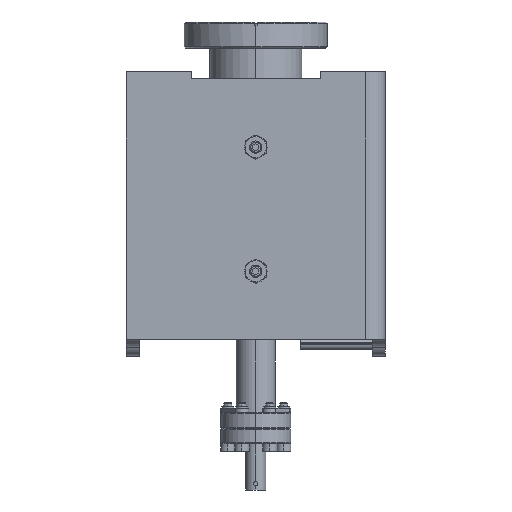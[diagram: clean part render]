
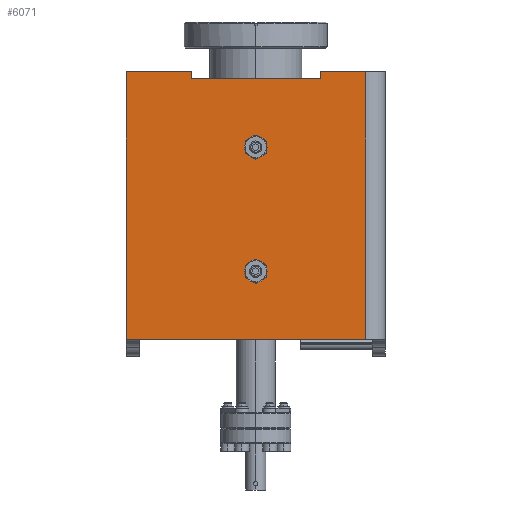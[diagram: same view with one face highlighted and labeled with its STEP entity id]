
A CAD part, left-side view. The second image highlights one B-rep face of the part: STEP entity #6071.
In plain terms, the highlighted planar face has unit normal (-1, 0, 0).
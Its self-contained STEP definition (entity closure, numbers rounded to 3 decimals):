
#203=DIRECTION('',(0.,0.,1.));
#204=VECTOR('',#203,129.404);
#205=CARTESIAN_POINT('',(-82.15,-50.95,-63.));
#206=LINE('',#205,#204);
#216=DIRECTION('',(0.,1.,0.));
#217=VECTOR('',#216,31.6);
#218=CARTESIAN_POINT('',(-82.15,33.275,66.404));
#219=LINE('',#218,#217);
#220=DIRECTION('',(0.,0.,-1.));
#221=VECTOR('',#220,3.404);
#222=CARTESIAN_POINT('',(-82.15,33.275,66.404));
#223=LINE('',#222,#221);
#224=DIRECTION('',(0.,-1.,0.));
#225=VECTOR('',#224,62.15);
#226=CARTESIAN_POINT('',(-82.15,33.275,63.));
#227=LINE('',#226,#225);
#228=CARTESIAN_POINT('',(-82.15,2.2,30.));
#229=DIRECTION('',(1.,0.,0.));
#230=DIRECTION('',(0.,0.866,-0.5));
#231=AXIS2_PLACEMENT_3D('',#228,#229,#230);
#233=CARTESIAN_POINT('',(-82.15,2.2,30.));
#234=DIRECTION('',(1.,0.,0.));
#235=DIRECTION('',(0.,-0.866,0.5));
#236=AXIS2_PLACEMENT_3D('',#233,#234,#235);
#238=CARTESIAN_POINT('',(-82.15,2.2,-30.));
#239=DIRECTION('',(1.,0.,0.));
#240=DIRECTION('',(0.,0.866,-0.5));
#241=AXIS2_PLACEMENT_3D('',#238,#239,#240);
#243=CARTESIAN_POINT('',(-82.15,2.2,-30.));
#244=DIRECTION('',(1.,0.,0.));
#245=DIRECTION('',(0.,-0.866,0.5));
#246=AXIS2_PLACEMENT_3D('',#243,#244,#245);
#252=DIRECTION('',(0.,0.,-1.));
#253=VECTOR('',#252,129.404);
#254=CARTESIAN_POINT('',(-82.15,64.875,66.404));
#255=LINE('',#254,#253);
#733=DIRECTION('',(0.,-1.,0.));
#734=VECTOR('',#733,115.825);
#735=CARTESIAN_POINT('',(-82.15,64.875,-63.));
#736=LINE('',#735,#734);
#1311=DIRECTION('',(0.,0.,-1.));
#1312=VECTOR('',#1311,3.404);
#1313=CARTESIAN_POINT('',(-82.15,-28.875,66.404));
#1314=LINE('',#1313,#1312);
#1324=DIRECTION('',(0.,-1.,0.));
#1325=VECTOR('',#1324,22.075);
#1326=CARTESIAN_POINT('',(-82.15,-28.875,66.404));
#1327=LINE('',#1326,#1325);
#5183=CARTESIAN_POINT('',(-82.15,-50.95,-63.));
#5185=VERTEX_POINT('',#5183);
#5317=CARTESIAN_POINT('',(-82.15,64.875,-63.));
#5319=VERTEX_POINT('',#5317);
#5411=CARTESIAN_POINT('',(-82.15,-28.875,66.404));
#5413=VERTEX_POINT('',#5411);
#5417=CARTESIAN_POINT('',(-82.15,-50.95,66.404));
#5419=VERTEX_POINT('',#5417);
#5433=CARTESIAN_POINT('',(-82.15,-28.875,63.));
#5434=VERTEX_POINT('',#5433);
#5436=CARTESIAN_POINT('',(-82.15,33.275,66.404));
#5438=VERTEX_POINT('',#5436);
#5439=CARTESIAN_POINT('',(-82.15,64.875,66.404));
#5440=VERTEX_POINT('',#5439);
#5453=CARTESIAN_POINT('',(-82.15,33.275,63.));
#5454=VERTEX_POINT('',#5453);
#5803=CARTESIAN_POINT('',(-82.15,6.963,27.25));
#5804=CARTESIAN_POINT('',(-82.15,-2.563,32.75));
#5805=VERTEX_POINT('',#5803);
#5806=VERTEX_POINT('',#5804);
#5875=CARTESIAN_POINT('',(-82.15,6.963,-32.75));
#5876=CARTESIAN_POINT('',(-82.15,-2.563,-27.25));
#5877=VERTEX_POINT('',#5875);
#5878=VERTEX_POINT('',#5876);
#6037=CARTESIAN_POINT('',(-82.15,58.525,63.));
#6038=DIRECTION('',(-1.,0.,0.));
#6039=DIRECTION('',(0.,-1.,0.));
#6040=AXIS2_PLACEMENT_3D('',#6037,#6038,#6039);
#6041=PLANE('',#6040);
#6043=ORIENTED_EDGE('',*,*,#6042,.F.);
#6045=ORIENTED_EDGE('',*,*,#6044,.F.);
#6047=ORIENTED_EDGE('',*,*,#6046,.T.);
#6049=ORIENTED_EDGE('',*,*,#6048,.T.);
#6051=ORIENTED_EDGE('',*,*,#6050,.F.);
#6053=ORIENTED_EDGE('',*,*,#6052,.T.);
#6054=ORIENTED_EDGE('',*,*,#6027,.F.);
#6056=ORIENTED_EDGE('',*,*,#6055,.F.);
#6057=EDGE_LOOP('',(#6043,#6045,#6047,#6049,#6051,#6053,#6054,#6056));
#6058=FACE_OUTER_BOUND('',#6057,.F.);
#6060=ORIENTED_EDGE('',*,*,#6059,.F.);
#6062=ORIENTED_EDGE('',*,*,#6061,.F.);
#6063=EDGE_LOOP('',(#6060,#6062));
#6064=FACE_BOUND('',#6063,.F.);
#6066=ORIENTED_EDGE('',*,*,#6065,.F.);
#6068=ORIENTED_EDGE('',*,*,#6067,.F.);
#6069=EDGE_LOOP('',(#6066,#6068));
#6070=FACE_BOUND('',#6069,.F.);
#6071=ADVANCED_FACE('',(#6058,#6064,#6070),#6041,.T.);
#232=CIRCLE('',#231,5.5);
#237=CIRCLE('',#236,5.5);
#242=CIRCLE('',#241,5.5);
#247=CIRCLE('',#246,5.5);
#6027=EDGE_CURVE('',#5185,#5419,#206,.T.);
#6042=EDGE_CURVE('',#5440,#5319,#255,.T.);
#6044=EDGE_CURVE('',#5438,#5440,#219,.T.);
#6046=EDGE_CURVE('',#5438,#5454,#223,.T.);
#6048=EDGE_CURVE('',#5454,#5434,#227,.T.);
#6050=EDGE_CURVE('',#5413,#5434,#1314,.T.);
#6052=EDGE_CURVE('',#5413,#5419,#1327,.T.);
#6055=EDGE_CURVE('',#5319,#5185,#736,.T.);
#6059=EDGE_CURVE('',#5805,#5806,#232,.T.);
#6061=EDGE_CURVE('',#5806,#5805,#237,.T.);
#6065=EDGE_CURVE('',#5877,#5878,#242,.T.);
#6067=EDGE_CURVE('',#5878,#5877,#247,.T.);
